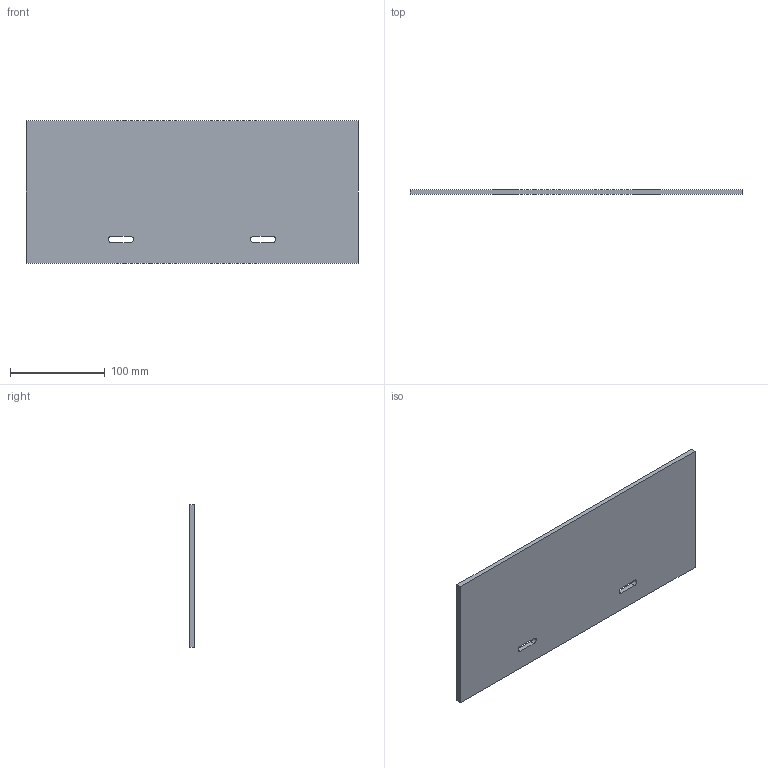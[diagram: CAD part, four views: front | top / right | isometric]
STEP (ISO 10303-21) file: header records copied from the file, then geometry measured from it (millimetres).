
FILE_DESCRIPTION(/* description */ ('Unknown'),/* implementation_level */ '2;1');
FILE_NAME(/* name */ '13_Light barrier part2',/* time_stamp */ '2020-08-28T13:35:50+02:00',/* author */ ('Unknown'),/* organization */ ('Unknown'),/* preprocessor_version */ 'ST-DEVELOPER v16.7',/* originating_system */ 'Solid Edge',/* authorisation */ 'Unknown');
FILE_SCHEMA (('AUTOMOTIVE_DESIGN {1 0 10303 214 3 1 1}'));
Length unit declared in the file: millimetre
Products named in the file (1): 13_Light barrier part2
Bounding box: 350 x 5 x 150 mm (x, y, z)
Volume: 260868.2 mm3; surface area: 109951.5 mm2
Topology: 1 solids, 1 shells, 14 faces, 36 edges, 24 vertices
Faces by surface type: plane 10, cylinder 4
Entity records: 466 total; most frequent: CARTESIAN_POINT 75, DIRECTION 74, ORIENTED_EDGE 72, EDGE_CURVE 36, LINE 28, VECTOR 28, VERTEX_POINT 24, AXIS2_PLACEMENT_3D 23
